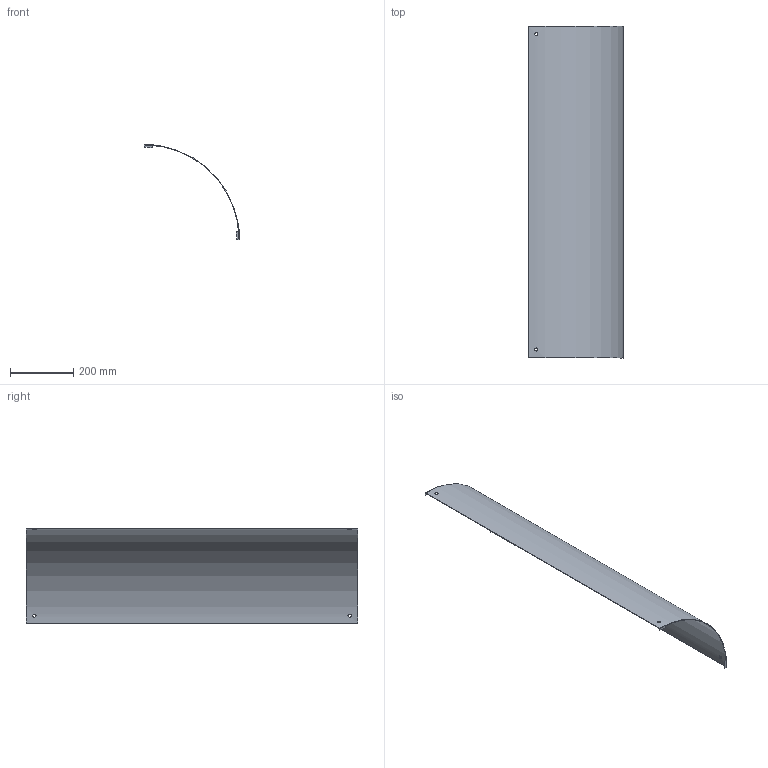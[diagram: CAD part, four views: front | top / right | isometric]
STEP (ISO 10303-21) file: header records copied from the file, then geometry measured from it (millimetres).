
FILE_DESCRIPTION(/* description */ ('','CAx-IF Rec.Pracs.---Representation and Presentation of Product Manufacturing Information (PMI)---4.0---2014-10-13'),/* implementation_level */ '2;1');
FILE_NAME(/* name */ 'Eurostrut_EORC1000-90-300_Cover Outside Riser 90 for Cable Ladder ECL.step',/* time_stamp */ '2026-09-10T12:25:21+02:00',/* author */ (''),/* organization */ (''),/* preprocessor_version */ 'ST-DEVELOPER v20.1',/* originating_system */ 'Autodesk Revit 2027 27.2.0.39',/* authorisation */ '');
FILE_SCHEMA (('AP242_MANAGED_MODEL_BASED_3D_ENGINEERING_MIM_LF { 1 0 10303 442 2 1 4 }'));
Length unit declared in the file: millimetre
Products named in the file (3): TopLevelAssembly; Sweep; Joined Solid Geometry
Assembly tree (2 placements, depth 2):
  TopLevelAssembly
    Sweep
    Joined Solid Geometry
Bounding box: 301.5 x 1053 x 301.5 mm (x, y, z)
Volume: 746837.8 mm3; surface area: 1000939.1 mm2
Topology: 5 solids, 5 shells, 38 faces, 84 edges, 56 vertices
Faces by surface type: plane 20, cylinder 18
Entity records: 1356 total; most frequent: CARTESIAN_POINT 459, DIRECTION 174, ORIENTED_EDGE 168, EDGE_CURVE 84, AXIS2_PLACEMENT_3D 63, VERTEX_POINT 56, LINE 48, VECTOR 48
